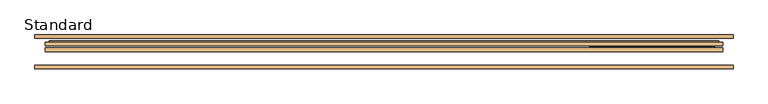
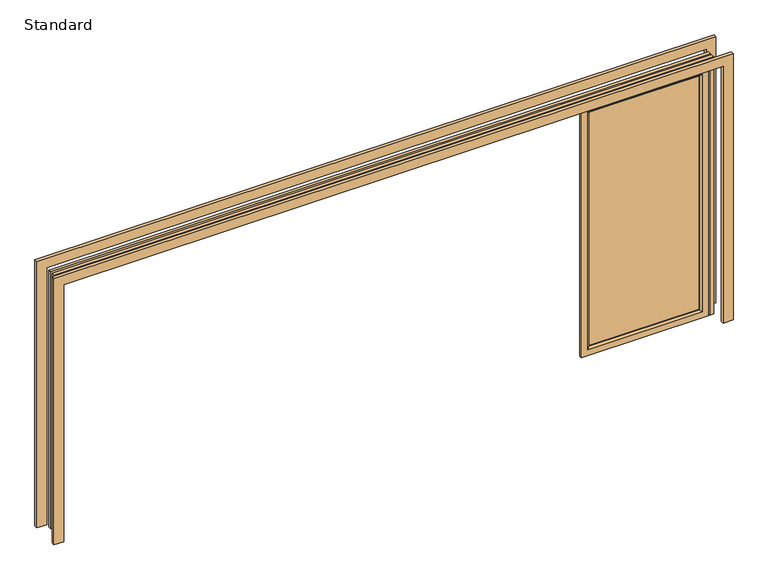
"""IFC4 building model written with IfcOpenShell, lengths in millimetres: door geometry, SMARTS_Visofold1000 : Standard."""

from ifc_helpers import new_model, si_unit, frame, origin, place, context, project, spatial, polyline, ellipse_curve, outline, extrude, faceted_brep, source, transform, mapped, element, save
from ifc_brep_helpers import plane_surface, cylinder_surface, advanced_brep


def standard_ed723b84(model_context):
    return source(origin(), model_context, "Body", "SolidModel", [
        advanced_brep(
        [(1556.5, 13.3, 60.5), (1556.5, 17.4, 60.5), (1556.5, 17.4, 1939.5), (1556.5, 13.3, 1939.5), (1496.0, 17.4, 0.0), (1496.0, 0.0, 0.0), (1496.0, 0.0, 2000.0), (1496.0, 17.4, 2000.0), (2399.5, 17.4, 1939.5), (2399.5, 13.3, 1939.5), (2460.0, 0.0, 2000.0), (2460.0, 17.4, 2000.0), (2399.5, 17.4, 60.5), (2399.5, 13.3, 60.5), (2460.0, 0.0, 0.0), (2460.0, 17.4, 0.0), (1543.2, 0.0, 1952.8), (2412.8, 0.0, 1952.8), (2412.8, 0.0, 47.2), (1543.2, 0.0, 47.2), (1513.8691481, 34.8, 17.8691481), (1513.8691481, 17.4, 17.8691481), (1513.8691481, 17.4, 1982.1308519), (1513.8691481, 34.8, 1982.1308519), (2442.1308519, 17.4, 1982.1308519), (2442.1308519, 34.8, 1982.1308519), (2442.1308519, 17.4, 17.8691481), (2442.1308519, 34.8, 17.8691481), (1541.0, 17.4, 45.0), (1541.0, 34.8, 45.0), (1541.0, 34.8, 1955.0), (1541.0, 17.4, 1955.0), (2415.0, 34.8, 1955.0), (2415.0, 17.4, 1955.0), (2415.0, 34.8, 45.0), (2415.0, 17.4, 45.0)],
        [
            (0, 1),
            (1, 2),
            (2, 3),
            (3, 0),
            (4, 5),
            (5, 6),
            (6, 7),
            (7, 4),
            (2, 8),
            (8, 9),
            (9, 3),
            (6, 10),
            (10, 11),
            (11, 7),
            (8, 12),
            (12, 13),
            (13, 9),
            (10, 14),
            (14, 15),
            (15, 11),
            (12, 1),
            (0, 13),
            (5, 14),
            (16, 17),
            (17, 18),
            (18, 19),
            (19, 16),
            (4, 15),
            (19, 0, ellipse_curve(frame((1543.2, 13.3, 47.2), z_axis=(-0.7071067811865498, 0.0, 0.7071067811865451), x_axis=(-0.7071067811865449, 0.0, -0.70710678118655)), 18.8090404, 13.3)),
            (3, 16, ellipse_curve(frame((1543.2, 13.3, 1952.8), z_axis=(-0.7071067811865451, 0.0, -0.70710678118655), x_axis=(0.7071067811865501, 0.0, -0.7071067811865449)), 18.8090404, 13.3)),
            (9, 17, ellipse_curve(frame((2412.8, 13.3, 1952.8), z_axis=(-0.7071067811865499, 0.0, 0.707106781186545), x_axis=(-0.7071067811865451, 0.0, -0.7071067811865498)), 18.8090404, 13.3)),
            (13, 18, ellipse_curve(frame((2412.8, 13.3, 47.2), z_axis=(0.7071067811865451, 0.0, 0.7071067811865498), x_axis=(-0.7071067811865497, 0.0, 0.7071067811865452)), 18.8090404, 13.3)),
            (20, 21),
            (21, 22),
            (22, 23),
            (23, 20),
            (22, 24),
            (24, 25),
            (25, 23),
            (24, 26),
            (26, 27),
            (27, 25),
            (21, 26),
            (20, 27),
            (28, 29),
            (29, 30),
            (30, 31),
            (31, 28),
            (30, 32),
            (32, 33),
            (33, 31),
            (32, 34),
            (34, 35),
            (35, 33),
            (34, 29),
            (28, 35),
        ],
        [
            plane_surface(frame((1556.5, 17.4, 60.5), z_axis=(1.0, 0.0, 0.0), x_axis=(0.0, 0.0, 1.0))),
            plane_surface(frame((1496.0, 0.0, 0.0), z_axis=(-1.0, 0.0, 0.0), x_axis=(0.0, 0.0, 1.0))),
            plane_surface(frame((1556.5, 17.4, 1939.5), z_axis=(0.0, 0.0, -1.0), x_axis=(1.0, 0.0, 0.0))),
            plane_surface(frame((1496.0, 0.0, 2000.0), z_axis=(0.0, 0.0, 1.0), x_axis=(1.0, 0.0, 0.0))),
            plane_surface(frame((2399.5, 17.4, 1939.5), z_axis=(-1.0, 0.0, 0.0), x_axis=(0.0, 0.0, -1.0))),
            plane_surface(frame((2460.0, 0.0, 2000.0), z_axis=(1.0, 0.0, 0.0), x_axis=(0.0, 0.0, -1.0))),
            plane_surface(frame((2399.5, 17.4, 60.5), z_axis=(0.0, 0.0, 1.0), x_axis=(-1.0, 0.0, 0.0))),
            plane_surface(frame((2412.8, 0.0, 47.2), z_axis=(0.0, -1.0, 0.0), x_axis=(-1.0, 0.0, 0.0))),
            plane_surface(frame((2460.0, 0.0, 0.0), z_axis=(0.0, 0.0, -1.0), x_axis=(-1.0, 0.0, 0.0))),
            cylinder_surface(frame((1543.2, 13.3, 0.0), z_axis=(0.0, 0.0, -1.0), x_axis=(0.0, 1.0, 0.0)), 13.3),
            cylinder_surface(frame((1496.0, 13.3, 1952.8), z_axis=(-1.0, 0.0, 0.0), x_axis=(0.0, 1.0, 0.0)), 13.3),
            cylinder_surface(frame((2412.8, 13.3, 2000.0), z_axis=(0.0, 0.0, 1.0), x_axis=(0.0, 1.0, 0.0)), 13.3),
            cylinder_surface(frame((2460.0, 13.3, 47.2), z_axis=(1.0, 0.0, 0.0), x_axis=(0.0, 1.0, 0.0)), 13.3),
            plane_surface(frame((1513.8691481, 17.4, 17.8691481), z_axis=(-1.0, 0.0, 0.0), x_axis=(0.0, 0.0, 1.0))),
            plane_surface(frame((1513.8691481, 17.4, 1982.1308519), z_axis=(0.0, 0.0, 1.0), x_axis=(1.0, 0.0, 0.0))),
            plane_surface(frame((2442.1308519, 17.4, 1982.1308519), z_axis=(1.0, 0.0, 0.0), x_axis=(0.0, 0.0, -1.0))),
            plane_surface(frame((2460.0, 17.4, 0.0), z_axis=(0.0, 1.0, 0.0), x_axis=(-1.0, 0.0, 0.0))),
            plane_surface(frame((2442.1308519, 17.4, 17.8691481), z_axis=(0.0, 0.0, -1.0), x_axis=(-1.0, 0.0, 0.0))),
            plane_surface(frame((1541.0, 34.8, 45.0), z_axis=(1.0, 0.0, 0.0), x_axis=(0.0, 0.0, 1.0))),
            plane_surface(frame((1541.0, 34.8, 1955.0), z_axis=(0.0, 0.0, -1.0), x_axis=(1.0, 0.0, 0.0))),
            plane_surface(frame((2415.0, 34.8, 1955.0), z_axis=(-1.0, 0.0, 0.0), x_axis=(0.0, 0.0, -1.0))),
            plane_surface(frame((2415.0, 34.8, 45.0), z_axis=(0.0, 0.0, 1.0), x_axis=(-1.0, 0.0, 0.0))),
            plane_surface(frame((2415.0, 17.4, 45.0), z_axis=(0.0, 1.0, 0.0), x_axis=(-1.0, 0.0, 0.0))),
            plane_surface(frame((2442.1308519, 34.8, 17.8691481), z_axis=(0.0, 1.0, 0.0), x_axis=(-1.0, 0.0, 0.0))),
        ],
        [
            (0, [[1, 2, 3, 4]]),
            (1, [[5, 6, 7, 8]]),
            (2, [[-3, 9, 10, 11]]),
            (3, [[-7, 12, 13, 14]]),
            (4, [[-10, 15, 16, 17]]),
            (5, [[-13, 18, 19, 20]]),
            (6, [[-16, 21, -1, 22]]),
            (7, [[23, -18, -12, -6], [24, 25, 26, 27]]),
            (8, [[-19, -23, -5, 28]]),
            (9, [[29, -4, 30, -27]]),
            (10, [[-30, -11, 31, -24]]),
            (11, [[-31, -17, 32, -25]]),
            (12, [[-32, -22, -29, -26]]),
            (13, [[33, 34, 35, 36]]),
            (14, [[-35, 37, 38, 39]]),
            (15, [[-38, 40, 41, 42]]),
            (16, [[-14, -20, -28, -8], [43, -40, -37, -34]]),
            (17, [[-41, -43, -33, 44]]),
            (18, [[45, 46, 47, 48]]),
            (19, [[-47, 49, 50, 51]]),
            (20, [[-50, 52, 53, 54]]),
            (21, [[-53, 55, -45, 56]]),
            (22, [[-51, -54, -56, -48], [-21, -15, -9, -2]]),
            (23, [[-39, -42, -44, -36], [-55, -52, -49, -46]]),
        ],
    ),
        extrude(outline(polyline([(1556.5, 50.1484783), (2399.5, 50.1484783), (2399.5, 21.4), (1556.5, 21.4), (1556.5, 50.1484783)])), frame((0.0, 0.0, 60.5), z_axis=(0.0, 0.0, 1.0), x_axis=(1.0, 0.0, 0.0)), (0.0, 0.0, 1.0), 1879.0),
        extrude(outline(polyline([(2058.6516063, -2500.0), (2058.6516063, 2500.0), (0.0, 2500.0), (0.0, 2575.0), (2133.6516063, 2575.0), (2133.6516063, -2575.0), (0.0, -2575.0), (0.0, -2500.0), (2058.6516063, -2500.0)])), frame((0.0, 100.0, 0.0), z_axis=(0.0, 1.0, 0.0), x_axis=(0.0, 0.0, 1.0)), (0.0, 0.0, 1.0), 25.0),
        extrude(outline(polyline([(2133.6516063, -2575.0), (0.0, -2575.0), (0.0, -2500.0), (2058.6516063, -2500.0), (2058.6516063, 2500.0), (0.0, 2500.0), (0.0, 2575.0), (2133.6516063, 2575.0), (2133.6516063, -2575.0)])), frame((0.0, -125.0, 0.0), z_axis=(0.0, 1.0, 0.0), x_axis=(0.0, 0.0, 1.0)), (0.0, 0.0, 1.0), 25.0),
        extrude(outline(polyline([(0.0, 2468.8), (0.0, 2500.0), (2058.6516063, 2500.0), (2058.6516063, -2500.0), (0.0, -2500.0), (0.0, -2468.8), (2027.4516063, -2468.8), (2027.4516063, 2468.8), (0.0, 2468.8)])), frame((0.0, 0.0, 0.0), z_axis=(0.0, 1.0, 0.0), x_axis=(0.0, 0.0, 1.0)), (0.0, 0.0, 1.0), 29.65),
        faceted_brep([(2500.0, 44.85, 0.0), (2468.8, 44.85, 0.0), (2468.8, 77.4, 0.0), (2448.3, 77.4, 0.0), (2448.3, 81.9, 0.0), (2470.6, 81.9, 0.0), (2470.6, 70.0, 0.0), (2500.0, 70.0, 0.0), (2500.0, 44.85, 2058.6516063), (-2500.0, 44.85, 2058.6516063), (-2500.0, 44.85, 0.0), (-2468.8, 44.85, 0.0), (-2468.8, 44.85, 2027.4516063), (2468.8, 44.85, 2027.4516063), (2468.8, 77.4, 2027.4516063), (-2468.8, 77.4, 2027.4516063), (-2468.8, 77.4, 0.0), (-2448.3, 77.4, 0.0), (-2448.3, 77.4, 2006.9516063), (2448.3, 77.4, 2006.9516063), (2448.3, 81.9, 2006.9516063), (-2448.3, 81.9, 2006.9516063), (-2448.3, 81.9, 0.0), (-2470.6, 81.9, 0.0), (-2470.6, 81.9, 2029.2516063), (2470.6, 81.9, 2029.2516063), (2470.6, 70.0, 2029.2516063), (-2470.6, 70.0, 2029.2516063), (-2470.6, 70.0, 0.0), (-2500.0, 70.0, 0.0), (-2500.0, 70.0, 2058.6516063), (2500.0, 70.0, 2058.6516063)], [[[0, 1, 2, 3, 4, 5, 6, 7]], [[1, 0, 8, 9, 10, 11, 12, 13]], [[2, 1, 13, 14]], [[3, 2, 14, 15, 16, 17, 18, 19]], [[4, 3, 19, 20]], [[5, 4, 20, 21, 22, 23, 24, 25]], [[6, 5, 25, 26]], [[7, 6, 26, 27, 28, 29, 30, 31]], [[0, 7, 31, 8]], [[10, 29, 28, 23, 22, 17, 16, 11]], [[9, 30, 29, 10]], [[27, 24, 23, 28]], [[21, 18, 17, 22]], [[15, 12, 11, 16]], [[8, 31, 30, 9]], [[14, 13, 12, 15]], [[26, 25, 24, 27]], [[20, 19, 18, 21]]]),
    ])


if __name__ == "__main__":
    model = new_model("IFC4")
    model_context = context("Model", 3, world=origin())
    ifc_project = project(units=[si_unit("LENGTHUNIT", "METRE", prefix="MILLI")], contexts=[model_context])
    site = spatial("IfcSite", under=ifc_project)
    building = spatial("IfcBuilding", under=site)
    placement = place(None, origin())
    standard_shape = standard_ed723b84(model_context)
    element("IfcDoor", 1, ObjectType="SMARTS_Visofold1000 : Standard", at=placement, inside=building, context=model_context, shape_type="MappedRepresentation", body=[
        mapped(standard_shape, transform((0.0, 0.0, 0.0), x_axis=(1.0, 0.0, 0.0), y_axis=(0.0, 1.0, 0.0), z_axis=(0.0, 0.0, 1.0))),
    ])
    save(model, "model.ifc")
